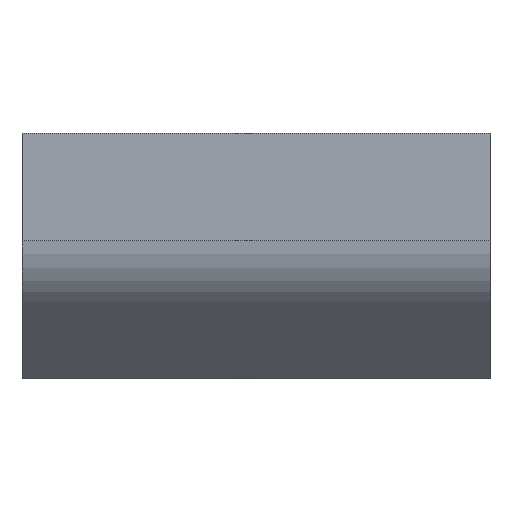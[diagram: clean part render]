
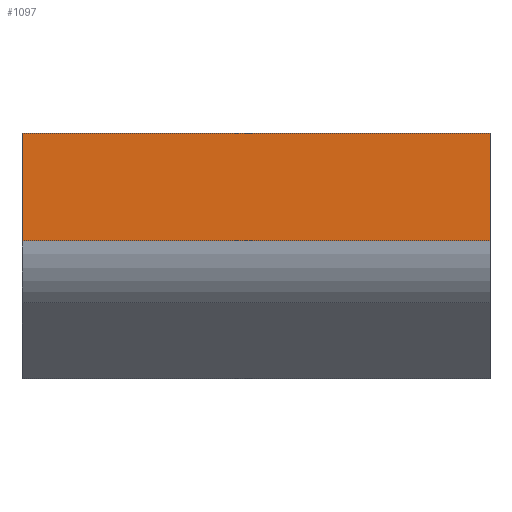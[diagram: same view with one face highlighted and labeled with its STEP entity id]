
A CAD part, front view. The second image highlights one B-rep face of the part: STEP entity #1097.
In plain terms, the highlighted planar face has unit normal (0, -1, 0).
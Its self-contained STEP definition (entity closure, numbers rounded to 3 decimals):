
#13 = CARTESIAN_POINT ( 'NONE',  ( 200., -75., 0. ) ) ;
#52 = EDGE_CURVE ( 'NONE', #667, #1498, #1413, .T. ) ;
#151 = VERTEX_POINT ( 'NONE', #751 ) ;
#187 = ORIENTED_EDGE ( 'NONE', *, *, #1034, .T. ) ;
#220 = AXIS2_PLACEMENT_3D ( 'NONE', #367, #501, #1005 ) ;
#367 = CARTESIAN_POINT ( 'NONE',  ( 200., -75., -91.777 ) ) ;
#501 = DIRECTION ( 'NONE',  ( 0., 1., 0. ) ) ;
#516 = VERTEX_POINT ( 'NONE', #714 ) ;
#667 = VERTEX_POINT ( 'NONE', #1178 ) ;
#668 = LINE ( 'NONE', #1299, #1100 ) ;
#686 = CARTESIAN_POINT ( 'NONE',  ( -200., -75., -91.777 ) ) ;
#714 = CARTESIAN_POINT ( 'NONE',  ( -200., -75., 0. ) ) ;
#751 = CARTESIAN_POINT ( 'NONE',  ( 200., -75., 0. ) ) ;
#798 = EDGE_CURVE ( 'NONE', #151, #667, #668, .T. ) ;
#809 = LINE ( 'NONE', #686, #1323 ) ;
#841 = EDGE_CURVE ( 'NONE', #516, #1498, #809, .T. ) ;
#886 = DIRECTION ( 'NONE',  ( -1., 0., 0. ) ) ;
#905 = CARTESIAN_POINT ( 'NONE',  ( 200., -75., -91.777 ) ) ;
#1005 = DIRECTION ( 'NONE',  ( 0., 0., 1. ) ) ;
#1034 = EDGE_CURVE ( 'NONE', #151, #516, #1148, .T. ) ;
#1054 = DIRECTION ( 'NONE',  ( 0., 0., -1. ) ) ;
#1097 = ADVANCED_FACE ( 'NONE', ( #1131 ), #1659, .F. ) ;
#1100 = VECTOR ( 'NONE', #1054, 1000. ) ;
#1131 = FACE_OUTER_BOUND ( 'NONE', #1666, .T. ) ;
#1140 = DIRECTION ( 'NONE',  ( -1., 0., 0. ) ) ;
#1144 = ORIENTED_EDGE ( 'NONE', *, *, #798, .F. ) ;
#1148 = LINE ( 'NONE', #13, #1485 ) ;
#1174 = VECTOR ( 'NONE', #886, 1000. ) ;
#1178 = CARTESIAN_POINT ( 'NONE',  ( 200., -75., -91.777 ) ) ;
#1191 = DIRECTION ( 'NONE',  ( 0., 0., -1. ) ) ;
#1249 = CARTESIAN_POINT ( 'NONE',  ( -200., -75., -91.777 ) ) ;
#1299 = CARTESIAN_POINT ( 'NONE',  ( 200., -75., -91.777 ) ) ;
#1323 = VECTOR ( 'NONE', #1191, 1000. ) ;
#1413 = LINE ( 'NONE', #905, #1174 ) ;
#1418 = ORIENTED_EDGE ( 'NONE', *, *, #841, .T. ) ;
#1485 = VECTOR ( 'NONE', #1140, 1000. ) ;
#1494 = ORIENTED_EDGE ( 'NONE', *, *, #52, .F. ) ;
#1498 = VERTEX_POINT ( 'NONE', #1249 ) ;
#1659 = PLANE ( 'NONE',  #220 ) ;
#1666 = EDGE_LOOP ( 'NONE', ( #1418, #1494, #1144, #187 ) ) ;
